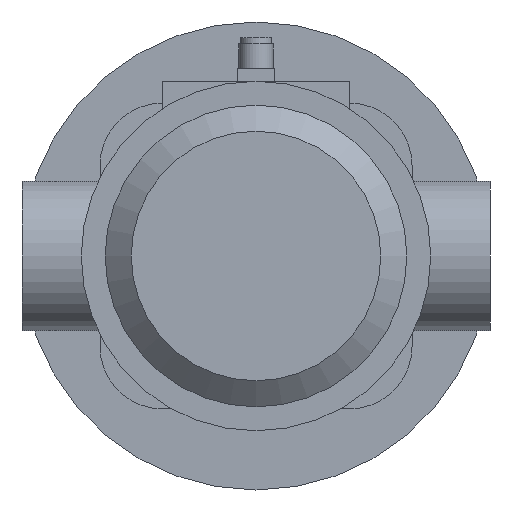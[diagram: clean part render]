
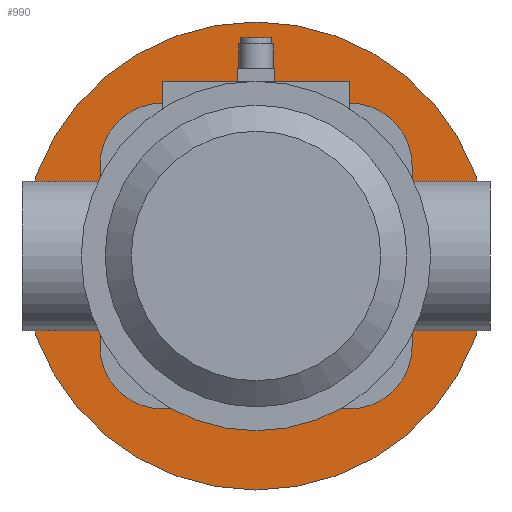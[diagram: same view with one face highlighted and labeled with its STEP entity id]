
A CAD part, front view. The second image highlights one B-rep face of the part: STEP entity #990.
In plain terms, the highlighted planar face has unit normal (0, -1, 0).
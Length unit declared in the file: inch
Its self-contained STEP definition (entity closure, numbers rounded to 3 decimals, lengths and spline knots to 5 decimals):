
#27=FACE_BOUND('',#159,.T.);
#58=PLANE('',#1089);
#97=FACE_OUTER_BOUND('',#158,.T.);
#158=EDGE_LOOP('',(#754,#755));
#159=EDGE_LOOP('',(#756,#757,#758,#759,#760,#761,#762,#763));
#244=LINE('',#1704,#303);
#245=LINE('',#1708,#304);
#246=LINE('',#1712,#305);
#247=LINE('',#1715,#306);
#303=VECTOR('',#1314,0.3937);
#304=VECTOR('',#1317,0.3937);
#305=VECTOR('',#1320,0.3937);
#306=VECTOR('',#1323,0.3937);
#349=CIRCLE('',#1090,1.875);
#350=CIRCLE('',#1091,1.875);
#351=CIRCLE('',#1092,0.5);
#352=CIRCLE('',#1093,0.5);
#353=CIRCLE('',#1094,0.5);
#354=CIRCLE('',#1095,0.5);
#452=VERTEX_POINT('',#1696);
#453=VERTEX_POINT('',#1697);
#454=VERTEX_POINT('',#1700);
#455=VERTEX_POINT('',#1701);
#456=VERTEX_POINT('',#1703);
#457=VERTEX_POINT('',#1705);
#458=VERTEX_POINT('',#1707);
#459=VERTEX_POINT('',#1709);
#460=VERTEX_POINT('',#1711);
#461=VERTEX_POINT('',#1713);
#574=EDGE_CURVE('',#452,#453,#349,.T.);
#575=EDGE_CURVE('',#453,#452,#350,.T.);
#576=EDGE_CURVE('',#454,#455,#351,.T.);
#577=EDGE_CURVE('',#456,#454,#244,.T.);
#578=EDGE_CURVE('',#457,#456,#352,.T.);
#579=EDGE_CURVE('',#458,#457,#245,.T.);
#580=EDGE_CURVE('',#459,#458,#353,.T.);
#581=EDGE_CURVE('',#460,#459,#246,.T.);
#582=EDGE_CURVE('',#461,#460,#354,.T.);
#583=EDGE_CURVE('',#455,#461,#247,.T.);
#754=ORIENTED_EDGE('',*,*,#574,.T.);
#755=ORIENTED_EDGE('',*,*,#575,.T.);
#756=ORIENTED_EDGE('',*,*,#576,.F.);
#757=ORIENTED_EDGE('',*,*,#577,.F.);
#758=ORIENTED_EDGE('',*,*,#578,.F.);
#759=ORIENTED_EDGE('',*,*,#579,.F.);
#760=ORIENTED_EDGE('',*,*,#580,.F.);
#761=ORIENTED_EDGE('',*,*,#581,.F.);
#762=ORIENTED_EDGE('',*,*,#582,.F.);
#763=ORIENTED_EDGE('',*,*,#583,.F.);
#990=ADVANCED_FACE('',(#97,#27),#58,.T.);
#1089=AXIS2_PLACEMENT_3D('',#1695,#1306,#1307);
#1090=AXIS2_PLACEMENT_3D('',#1698,#1308,#1309);
#1091=AXIS2_PLACEMENT_3D('',#1699,#1310,#1311);
#1092=AXIS2_PLACEMENT_3D('',#1702,#1312,#1313);
#1093=AXIS2_PLACEMENT_3D('',#1706,#1315,#1316);
#1094=AXIS2_PLACEMENT_3D('',#1710,#1318,#1319);
#1095=AXIS2_PLACEMENT_3D('',#1714,#1321,#1322);
#1306=DIRECTION('center_axis',(0.,-1.,0.));
#1307=DIRECTION('ref_axis',(0.,0.,-1.));
#1308=DIRECTION('center_axis',(0.,-1.,0.));
#1309=DIRECTION('ref_axis',(1.,0.,0.));
#1310=DIRECTION('center_axis',(0.,-1.,0.));
#1311=DIRECTION('ref_axis',(1.,0.,0.));
#1312=DIRECTION('center_axis',(0.,-1.,0.));
#1313=DIRECTION('ref_axis',(0.707,0.,-0.707));
#1314=DIRECTION('',(1.,0.,0.));
#1315=DIRECTION('center_axis',(0.,-1.,0.));
#1316=DIRECTION('ref_axis',(-0.707,0.,-0.707));
#1317=DIRECTION('',(0.,0.,-1.));
#1318=DIRECTION('center_axis',(0.,-1.,0.));
#1319=DIRECTION('ref_axis',(-0.707,0.,0.707));
#1320=DIRECTION('',(-1.,0.,0.));
#1321=DIRECTION('center_axis',(0.,-1.,0.));
#1322=DIRECTION('ref_axis',(0.707,0.,0.707));
#1323=DIRECTION('',(0.,0.,1.));
#1695=CARTESIAN_POINT('Origin',(0.,1.4,0.));
#1696=CARTESIAN_POINT('',(1.875,1.4,0.));
#1697=CARTESIAN_POINT('',(-1.875,1.4,0.));
#1698=CARTESIAN_POINT('Origin',(0.,1.4,0.));
#1699=CARTESIAN_POINT('Origin',(0.,1.4,0.));
#1700=CARTESIAN_POINT('',(0.75,1.4,-1.225));
#1701=CARTESIAN_POINT('',(1.25,1.4,-0.725));
#1702=CARTESIAN_POINT('Origin',(0.75,1.4,-0.725));
#1703=CARTESIAN_POINT('',(-0.75,1.4,-1.225));
#1704=CARTESIAN_POINT('',(0.,1.4,-1.225));
#1705=CARTESIAN_POINT('',(-1.25,1.4,-0.725));
#1706=CARTESIAN_POINT('Origin',(-0.75,1.4,-0.725));
#1707=CARTESIAN_POINT('',(-1.25,1.4,0.725));
#1708=CARTESIAN_POINT('',(-1.25,1.4,0.));
#1709=CARTESIAN_POINT('',(-0.75,1.4,1.225));
#1710=CARTESIAN_POINT('Origin',(-0.75,1.4,0.725));
#1711=CARTESIAN_POINT('',(0.75,1.4,1.225));
#1712=CARTESIAN_POINT('',(0.,1.4,1.225));
#1713=CARTESIAN_POINT('',(1.25,1.4,0.725));
#1714=CARTESIAN_POINT('Origin',(0.75,1.4,0.725));
#1715=CARTESIAN_POINT('',(1.25,1.4,0.));
